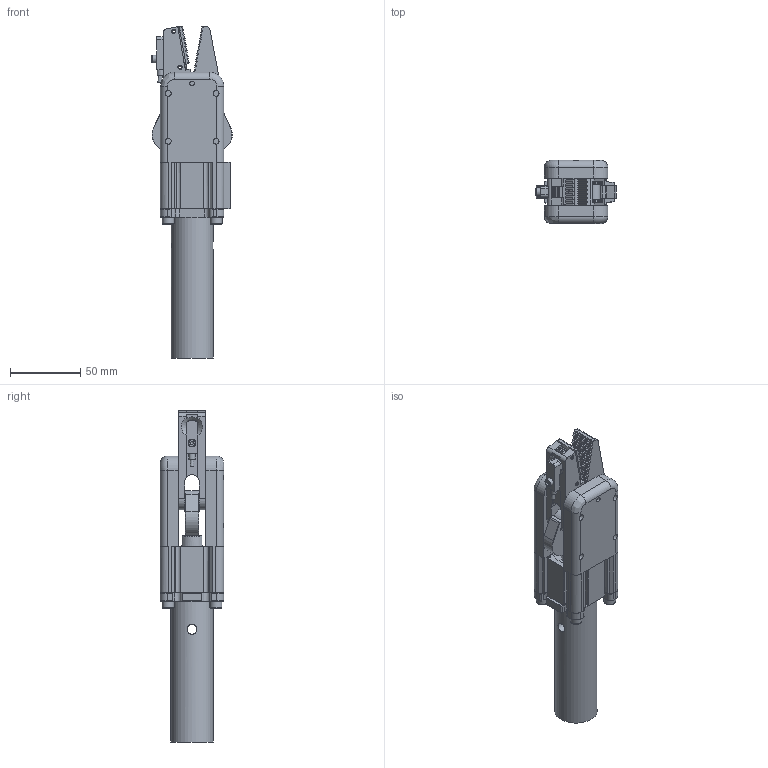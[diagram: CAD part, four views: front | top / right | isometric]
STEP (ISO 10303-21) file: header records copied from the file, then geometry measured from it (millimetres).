
FILE_DESCRIPTION(/* description */ (''),/* implementation_level */ '2;1');
FILE_NAME(/* name */ '8Y00466-GRP32B-CP--30.stp',/* time_stamp */ '2023-02-22T11:32:37+08:00',/* author */ (''),/* organization */ (''),/* preprocessor_version */ 'ST-DEVELOPER v16',/* originating_system */ 'SIEMENS PLM Software NX 10.0',/* authorisation */ '');
FILE_SCHEMA (('AUTOMOTIVE_DESIGN { 1 0 10303 214 3 1 1 1 }'));
Products named in the file (1): _model34
Bounding box: 57.15 x 45 x 235.81 mm (x, y, z)
Volume: 210619.3 mm3; surface area: 87632.4 mm2
Topology: 17 solids, 23 shells, 2070 faces, 4074 edges, 2070 vertices
Faces by surface type: plane 1733, cylinder 207, cone 102, torus 15, bspline 12, sphere 1
Full cylindrical faces by diameter (mm): 2.4 x1, 2.5 x2, 3 x5, 3.1 x1, 3.3 x1, 3.4 x3, 4 x1, 4.1 x1, 4.2 x8, 4.5 x2, 5 x5, 5.2 x4, 5.5 x5, 6 x9, 6.647 x1, 6.8 x1, 7 x3, 8 x7, 8.1 x1, 8.5 x4, 8.566 x2, 8.6 x1, 9 x8, 10 x5, 13 x1, 14 x1, 15 x2, 16 x2, 17 x12, 21 x1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
Entity records: 68545 total; most frequent: CARTESIAN_POINT 13479, DIRECTION 8521, ORIENTED_EDGE 7638, EDGE_CURVE 3819, LINE 3113, VECTOR 3113, AXIS2_PLACEMENT_3D 2704, EDGE_LOOP 2350
